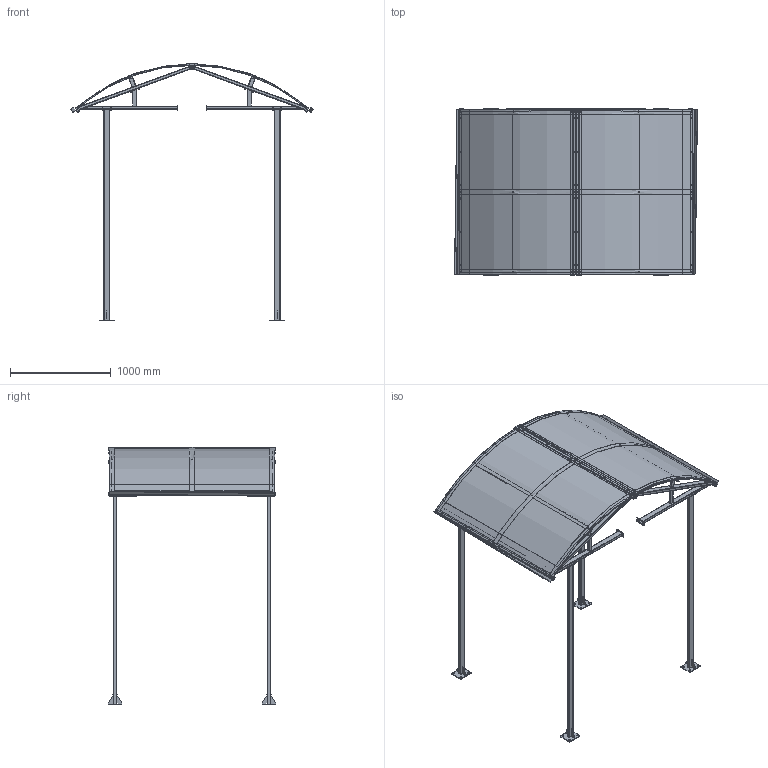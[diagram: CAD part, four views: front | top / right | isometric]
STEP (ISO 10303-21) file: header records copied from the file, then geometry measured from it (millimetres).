
FILE_DESCRIPTION(/* description */ ('Unknown'),/* implementation_level */ '2;1');
FILE_NAME(/* name */ 'Сборка5',/* time_stamp */ '2021-11-22T16:14:05+03:00',/* author */ ('Unknown'),/* organization */ ('Unknown'),/* preprocessor_version */ 'ST-DEVELOPER v18.1',/* originating_system */ 'Solid Edge',/* authorisation */ 'Unknown');
FILE_SCHEMA (('CONFIG_CONTROL_DESIGN'));
Length unit declared in the file: millimetre
Products named in the file (53): 栖闉罻5; RTD-16.1.410.00 Êðûøà òóðíèêåòà RTD-16.1; RTD-16.1.403.00 Ñòîéêà êðûøè; RTD-16.1.403.02 砑僔蠂縺; RTD-16.1.403.01 栺鍣罻; RTD-16.1.403.03 砑僔蠂縺_r1; RTD-16.1.120.06 ﾐ裔; Çàãëóøêà 62MP0625 (d îòâ. 16, ÷åðíàÿ); RTD-16.1.415.00 砑僔蠂縺; RTD-16.1.415.01 砑僔蠂縺_r1; RTD-16.1.415.02 砑僔蠂縺; RTD-16.1.415.03 Óïëîòíèòåëü; RTD-16.1.411.00-01 Êàðêàñ êðûøè â ñáîðå; RTD-16.1.411.02 昳錒槂r1; RTD-16.1.411.01 咍嚦; RTD-16.1.411.08 砑僔蠂縺_r1; RTD-16.1.411.05-01 Ïðîôèëü_äëÿ ñáîðêè; Çàãëóøêà 40õ20 (÷åðí.); RTD-16.1.411.03 橡铘桦黖r1; RTD-16.1.412.00-01 Êàðêàñ êðûøè; RTD-16.1.412.05 秮鶋趌r1; RTD-16.1.412.01 醜鍆趌r1; RTD-16.1.412.02 秮鶋趌r1; RTD-16.1.412.04 秮鶋趌r1; RTD-16.1.412.03-01秮鶋趌r2; Çàêëåïêà_ðåçüáîâàÿ_Ì8_FTS.C_1,5...3,8; Çàêëåïêà_ðåçüáîâàÿ_Ì6_FTS.C_1,5...3,8; Çàêëåïêà_âûòÿæíàÿ_4õ8_DIN_7337_2,5...4,5_oa_0; Çàêëåïêà_âûòÿæíàÿ_4õ8_DIN_7337_2,5...4,5_oa_1; Çàêëåïêà_âûòÿæíàÿ_4õ8_DIN_7337_2,5...4,5_oa_2; Çàêëåïêà_âûòÿæíàÿ_4õ8_DIN_7337_2,5...4,5_oa_3; Ñàìîðåç_4,2x32_äëÿ_òîíêèõ_ïëàñòèí; RTD-16.1.411.05 Ïðîôèëü_äëÿ ñáîðêè; RTD-16.1.411.07 砑僔蠂縺; RTD-16.1.411.00 Êàðêàñ êðûøè â ñáîðå; RTD-16.1.412.00 Êàðêàñ êðûøè; RTD-16.1.412.03 秮鶋趌r2; Çàêëåïêà_âûòÿæíàÿ_4õ8_DIN_7337_2,5...4,5_àëþì._oa_4; Çàêëåïêà_âûòÿæíàÿ_4õ8_DIN_7337_2,5...4,5_àëþì._oa_5; Çàêëåïêà_âûòÿæíàÿ_4õ8_DIN_7337_2,5...4,5_àëþì._oa_6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
Assembly tree (249 placements, depth 5):
  栖闉罻5
    RTD-16.1.410.00 Êðûøà òóðíèêåòà RTD-16.1
      RTD-16.1.403.00 Ñòîéêà êðûøè  x4
        RTD-16.1.403.02 砑僔蠂縺
        RTD-16.1.403.01 栺鍣罻
        RTD-16.1.403.03 砑僔蠂縺_r1
        RTD-16.1.120.06 ﾐ裔
      Çàãëóøêà 62MP0625 (d îòâ. 16, ÷åðíàÿ)  x5
      RTD-16.1.415.00 砑僔蠂縺
        RTD-16.1.415.01 砑僔蠂縺_r1
        RTD-16.1.415.02 砑僔蠂縺  x2
        RTD-16.1.415.03 Óïëîòíèòåëü  x2
      RTD-16.1.411.00-01 Êàðêàñ êðûøè â ñáîðå
        RTD-16.1.411.02 昳錒槂r1
        RTD-16.1.411.01 咍嚦
        RTD-16.1.411.08 砑僔蠂縺_r1  x4
        RTD-16.1.411.05-01 Ïðîôèëü_äëÿ ñáîðêè
        Çàãëóøêà 40õ20 (÷åðí.)  x6
        RTD-16.1.411.03 橡铘桦黖r1
        RTD-16.1.412.00-01 Êàðêàñ êðûøè
          RTD-16.1.412.05 秮鶋趌r1
          RTD-16.1.412.01 醜鍆趌r1  x2
          RTD-16.1.412.02 秮鶋趌r1  x2
          RTD-16.1.412.04 秮鶋趌r1
          RTD-16.1.412.03-01秮鶋趌r2
          Çàêëåïêà_ðåçüáîâàÿ_Ì8_FTS.C_1,5...3,8  x4
          Çàêëåïêà_ðåçüáîâàÿ_Ì6_FTS.C_1,5...3,8  x8
        Çàêëåïêà_âûòÿæíàÿ_4õ8_DIN_7337_2,5...4,5_oa_0
        Çàêëåïêà_âûòÿæíàÿ_4õ8_DIN_7337_2,5...4,5_oa_1
        Çàêëåïêà_âûòÿæíàÿ_4õ8_DIN_7337_2,5...4,5_oa_2
        Çàêëåïêà_âûòÿæíàÿ_4õ8_DIN_7337_2,5...4,5_oa_3
        Ñàìîðåç_4,2x32_äëÿ_òîíêèõ_ïëàñòèí  x21
        RTD-16.1.411.05 Ïðîôèëü_äëÿ ñáîðêè
        RTD-16.1.411.07 砑僔蠂縺  x3
      RTD-16.1.411.00 Êàðêàñ êðûøè â ñáîðå
        RTD-16.1.411.02 昳錒槂r1
        RTD-16.1.411.08 砑僔蠂縺_r1  x4
        Çàãëóøêà 40õ20 (÷åðí.)  x6
        RTD-16.1.411.03 橡铘桦黖r1
        RTD-16.1.412.00 Êàðêàñ êðûøè
          RTD-16.1.412.05 秮鶋趌r1
          RTD-16.1.412.01 醜鍆趌r1  x2
          RTD-16.1.412.02 秮鶋趌r1  x2
          RTD-16.1.412.04 秮鶋趌r1
          RTD-16.1.412.03 秮鶋趌r2
          Çàêëåïêà_ðåçüáîâàÿ_Ì8_FTS.C_1,5...3,8  x4
          Çàêëåïêà_ðåçüáîâàÿ_Ì6_FTS.C_1,5...3,8  x13
        RTD-16.1.411.01 咍嚦
        Ñàìîðåç_4,2x32_äëÿ_òîíêèõ_ïëàñòèí  x21
        Çàêëåïêà_âûòÿæíàÿ_4õ8_DIN_7337_2,5...4,5_àëþì._oa_4
        RTD-16.1.411.05 Ïðîôèëü_äëÿ ñáîðêè
        Çàêëåïêà_âûòÿæíàÿ_4õ8_DIN_7337_2,5...4,5_àëþì._oa_5
        Çàêëåïêà_âûòÿæíàÿ_4õ8_DIN_7337_2,5...4,5_àëþì._oa_6
        Çàêëåïêà_âûòÿæíàÿ_4õ8_DIN_7337_2,5...4,5_àëþì._oa_7
        RTD-16.1.411.05-01 Ïðîôèëü_äëÿ ñáîðêè
        RTD-16.1.411.07 砑僔蠂縺  x3
      RTD-16.1.413.00 ﾊ煇鳫  x4
        RTD-16.1.413.01 醜鍆趌r1
        Çàêëåïêà_ðåçüáîâàÿ_Ì6_FTT.C_0,5...3,0
        RTD-16.1.413.03 赶鎀鍧_r1
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Bounding box: 2412.82 x 1660 x 2559.18 mm (x, y, z)
Volume: 53086654.7 mm3; surface area: 20181920.4 mm2
Topology: 277 solids, 323 shells, 5305 faces, 11687 edges, 7266 vertices
Faces by surface type: plane 3180, cylinder 1454, cone 316, torus 201, sphere 92, bspline 62
Full cylindrical faces by diameter (mm): 2.5 x8, 3 x18, 4 x8, 4.1 x8, 4.2 x54, 4.5 x30, 4.773 x37, 4.917 x37, 6 x78, 6.4 x37, 6.466 x2, 6.647 x8, 7 x5, 7.8 x37, 8 x20, 8.4 x2, 8.9 x74, 9 x56, 9.5 x8, 10 x45, 10.9 x16, 11.4 x46, 11.8 x21, 12 x53, 13 x7, 13.8 x8, 15 x32, 16 x12, 18 x5
Entity records: 27125 total; most frequent: DIRECTION 4701, CARTESIAN_POINT 4385, ORIENTED_EDGE 3536, AXIS2_PLACEMENT_3D 1843, EDGE_CURVE 1768, FACE_BOUND 1329, EDGE_LOOP 1327, VERTEX_POINT 1269
